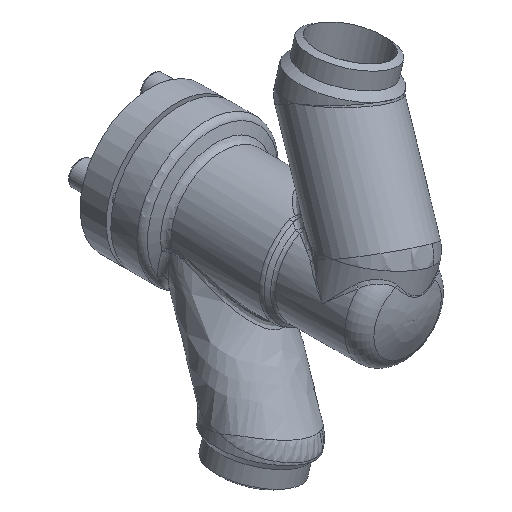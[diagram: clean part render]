
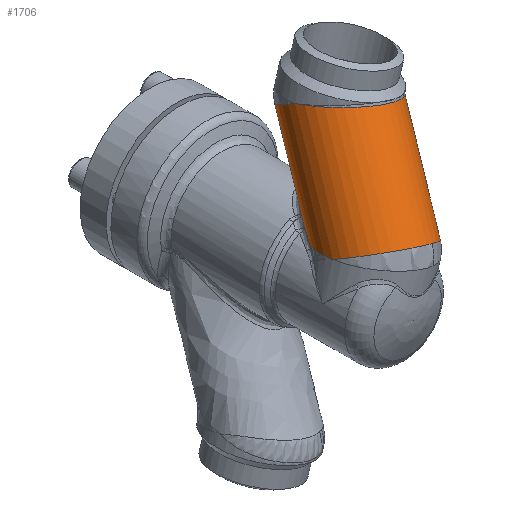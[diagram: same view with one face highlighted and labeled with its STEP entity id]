
A CAD part, isometric view. The second image highlights one B-rep face of the part: STEP entity #1706.
In plain terms, the highlighted cylindrical face has radius 24.5 mm (diameter 49 mm), a full revolution.
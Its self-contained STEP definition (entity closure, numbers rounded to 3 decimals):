
#118=B_SPLINE_CURVE_WITH_KNOTS('',3,(#2741,#2742,#2743,#2744),
 .UNSPECIFIED.,.F.,.F.,(4,4),(22.672,23.613),
 .UNSPECIFIED.);
#122=B_SPLINE_CURVE_WITH_KNOTS('',3,(#2789,#2790,#2791,#2792),
 .UNSPECIFIED.,.F.,.F.,(4,4),(-15.736,-15.169),
 .UNSPECIFIED.);
#129=B_SPLINE_CURVE_WITH_KNOTS('',3,(#2987,#2988,#2989,#2990),
 .UNSPECIFIED.,.F.,.F.,(4,4),(-27.22,-26.653),
 .UNSPECIFIED.);
#131=B_SPLINE_CURVE_WITH_KNOTS('',3,(#3044,#3045,#3046,#3047,#3048,#3049,
#3050,#3051,#3052,#3053,#3054),.UNSPECIFIED.,.F.,.F.,(4,1,1,1,1,1,1,1,4),
(18.338,19.069,19.8,20.531,20.896,
21.262,21.993,22.724,23.455),
 .UNSPECIFIED.);
#132=B_SPLINE_CURVE_WITH_KNOTS('',3,(#3055,#3056,#3057,#3058),
 .UNSPECIFIED.,.F.,.F.,(4,4),(22.555,23.497),
 .UNSPECIFIED.);
#207=ELLIPSE('',#1890,25.886,24.5);
#208=ELLIPSE('',#1892,27.484,24.5);
#209=ELLIPSE('',#1893,24.682,24.5);
#210=ELLIPSE('',#1894,27.484,24.5);
#211=ELLIPSE('',#1895,24.682,24.5);
#274=CYLINDRICAL_SURFACE('',#1891,24.5);
#328=FACE_BOUND('',#592,.T.);
#427=FACE_OUTER_BOUND('',#591,.T.);
#591=EDGE_LOOP('',(#1345,#1346,#1347,#1348,#1349,#1350,#1351,#1352));
#592=EDGE_LOOP('',(#1353,#1354));
#841=VERTEX_POINT('',#2573);
#842=VERTEX_POINT('',#2575);
#850=VERTEX_POINT('',#2597);
#853=VERTEX_POINT('',#2607);
#864=VERTEX_POINT('',#2740);
#867=VERTEX_POINT('',#2780);
#874=VERTEX_POINT('',#2938);
#875=VERTEX_POINT('',#3038);
#876=VERTEX_POINT('',#3039);
#877=VERTEX_POINT('',#3041);
#1035=EDGE_CURVE('',#850,#864,#118,.T.);
#1040=EDGE_CURVE('',#867,#850,#122,.T.);
#1053=EDGE_CURVE('',#853,#874,#129,.T.);
#1055=EDGE_CURVE('',#842,#841,#207,.T.);
#1056=EDGE_CURVE('',#875,#876,#208,.T.);
#1057=EDGE_CURVE('',#877,#875,#209,.T.);
#1058=EDGE_CURVE('',#864,#877,#210,.T.);
#1059=EDGE_CURVE('',#874,#867,#131,.T.);
#1060=EDGE_CURVE('',#876,#853,#132,.T.);
#1061=EDGE_CURVE('',#841,#842,#211,.T.);
#1345=ORIENTED_EDGE('',*,*,#1056,.F.);
#1346=ORIENTED_EDGE('',*,*,#1057,.F.);
#1347=ORIENTED_EDGE('',*,*,#1058,.F.);
#1348=ORIENTED_EDGE('',*,*,#1035,.F.);
#1349=ORIENTED_EDGE('',*,*,#1040,.F.);
#1350=ORIENTED_EDGE('',*,*,#1059,.F.);
#1351=ORIENTED_EDGE('',*,*,#1053,.F.);
#1352=ORIENTED_EDGE('',*,*,#1060,.F.);
#1353=ORIENTED_EDGE('',*,*,#1055,.F.);
#1354=ORIENTED_EDGE('',*,*,#1061,.F.);
#1706=ADVANCED_FACE('',(#427,#328),#274,.T.);
#1890=AXIS2_PLACEMENT_3D('',#3036,#2214,#2215);
#1891=AXIS2_PLACEMENT_3D('',#3037,#2216,#2217);
#1892=AXIS2_PLACEMENT_3D('',#3040,#2218,#2219);
#1893=AXIS2_PLACEMENT_3D('',#3042,#2220,#2221);
#1894=AXIS2_PLACEMENT_3D('',#3043,#2222,#2223);
#1895=AXIS2_PLACEMENT_3D('',#3059,#2224,#2225);
#2214=DIRECTION('center_axis',(-0.96,0.278,0.));
#2215=DIRECTION('ref_axis',(-0.278,-0.96,0.));
#2216=DIRECTION('center_axis',(0.819,-0.574,0.));
#2217=DIRECTION('ref_axis',(-0.574,-0.819,0.));
#2218=DIRECTION('center_axis',(0.99,-0.14,0.));
#2219=DIRECTION('ref_axis',(0.14,0.99,0.));
#2220=DIRECTION('center_axis',(0.883,-0.47,0.));
#2221=DIRECTION('ref_axis',(-0.47,-0.883,0.));
#2222=DIRECTION('center_axis',(0.99,-0.14,0.));
#2223=DIRECTION('ref_axis',(0.14,0.99,0.));
#2224=DIRECTION('center_axis',(-0.883,0.47,0.));
#2225=DIRECTION('ref_axis',(0.47,0.883,0.));
#2573=CARTESIAN_POINT('',(-68.5,-55.,24.5));
#2575=CARTESIAN_POINT('',(-68.5,-55.,-24.5));
#2597=CARTESIAN_POINT('',(-20.68,-67.307,17.301));
#2607=CARTESIAN_POINT('',(-20.68,-67.307,-17.301));
#2740=CARTESIAN_POINT('',(-16.358,-74.756,20.295));
#2741=CARTESIAN_POINT('Ctrl Pts',(-20.68,-67.307,17.301));
#2742=CARTESIAN_POINT('Ctrl Pts',(-19.275,-69.729,18.482));
#2743=CARTESIAN_POINT('Ctrl Pts',(-17.831,-72.218,19.46));
#2744=CARTESIAN_POINT('Ctrl Pts',(-16.358,-74.756,20.295));
#2780=CARTESIAN_POINT('',(-25.096,-63.769,16.926));
#2789=CARTESIAN_POINT('Ctrl Pts',(-25.096,-63.769,16.926));
#2790=CARTESIAN_POINT('Ctrl Pts',(-23.644,-64.967,17.082));
#2791=CARTESIAN_POINT('Ctrl Pts',(-22.177,-66.147,17.209));
#2792=CARTESIAN_POINT('Ctrl Pts',(-20.68,-67.307,17.301));
#2938=CARTESIAN_POINT('',(-25.096,-63.769,-16.926));
#2987=CARTESIAN_POINT('Ctrl Pts',(-20.68,-67.307,-17.301));
#2988=CARTESIAN_POINT('Ctrl Pts',(-22.177,-66.147,-17.209));
#2989=CARTESIAN_POINT('Ctrl Pts',(-23.644,-64.967,-17.082));
#2990=CARTESIAN_POINT('Ctrl Pts',(-25.096,-63.769,-16.926));
#3036=CARTESIAN_POINT('Origin',(-68.5,-55.,0.));
#3037=CARTESIAN_POINT('Origin',(-68.5,-55.,0.));
#3038=CARTESIAN_POINT('',(-18.515,-90.,-24.5));
#3039=CARTESIAN_POINT('',(-16.358,-74.756,-20.295));
#3040=CARTESIAN_POINT('Origin',(-18.515,-90.,0.));
#3041=CARTESIAN_POINT('',(-18.515,-90.,24.5));
#3042=CARTESIAN_POINT('Origin',(-18.515,-90.,0.));
#3043=CARTESIAN_POINT('Origin',(-18.515,-90.,0.));
#3044=CARTESIAN_POINT('Ctrl Pts',(-25.096,-63.769,-16.926));
#3045=CARTESIAN_POINT('Ctrl Pts',(-26.073,-61.899,-15.91));
#3046=CARTESIAN_POINT('Ctrl Pts',(-27.99,-58.283,-13.608));
#3047=CARTESIAN_POINT('Ctrl Pts',(-30.514,-53.612,-9.202));
#3048=CARTESIAN_POINT('Ctrl Pts',(-31.976,-50.933,-4.348));
#3049=CARTESIAN_POINT('Ctrl Pts',(-32.295,-50.35,0.02));
#3050=CARTESIAN_POINT('Ctrl Pts',(-31.966,-50.952,4.393));
#3051=CARTESIAN_POINT('Ctrl Pts',(-30.509,-53.62,9.213));
#3052=CARTESIAN_POINT('Ctrl Pts',(-27.974,-58.314,13.631));
#3053=CARTESIAN_POINT('Ctrl Pts',(-26.071,-61.902,15.912));
#3054=CARTESIAN_POINT('Ctrl Pts',(-25.096,-63.769,16.926));
#3055=CARTESIAN_POINT('Ctrl Pts',(-16.358,-74.756,-20.295));
#3056=CARTESIAN_POINT('Ctrl Pts',(-17.829,-72.221,-19.461));
#3057=CARTESIAN_POINT('Ctrl Pts',(-19.273,-69.731,-18.483));
#3058=CARTESIAN_POINT('Ctrl Pts',(-20.68,-67.307,-17.301));
#3059=CARTESIAN_POINT('Origin',(-68.5,-55.,0.));
